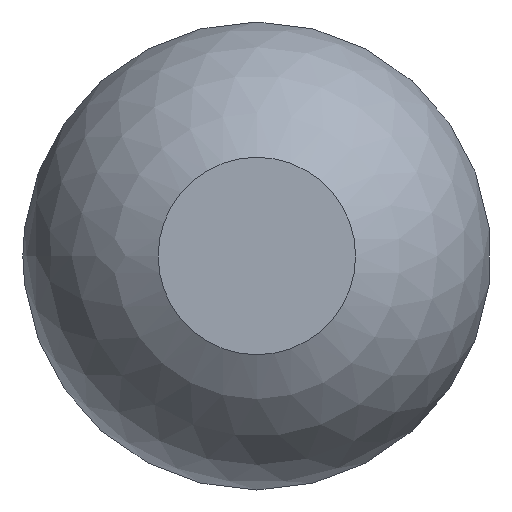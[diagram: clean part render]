
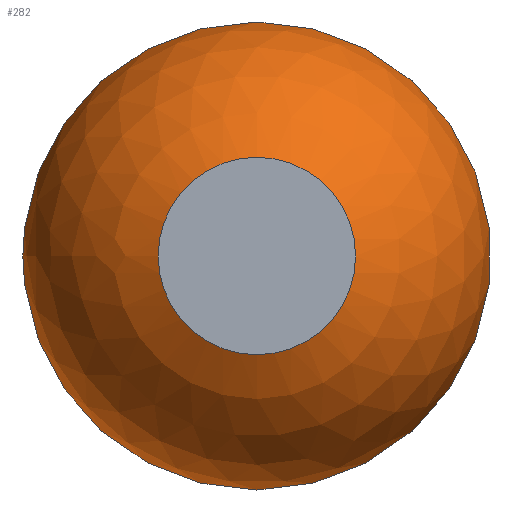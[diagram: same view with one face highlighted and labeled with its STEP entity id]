
A CAD part, left-side view. The second image highlights one B-rep face of the part: STEP entity #282.
In plain terms, the highlighted spherical face has radius 7.5 mm.
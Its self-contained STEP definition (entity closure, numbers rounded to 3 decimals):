
#282=ADVANCED_FACE('',(#476,#478),#480,.T.);
#476=FACE_OUTER_BOUND('',#477,.T.);
#477=EDGE_LOOP('',(#692));
#478=FACE_OUTER_BOUND('',#479,.T.);
#479=EDGE_LOOP('',(#693));
#480=SPHERICAL_SURFACE('',#481,7.5);
#481=AXIS2_PLACEMENT_3D('',#482,#483,#484);
#482=CARTESIAN_POINT('',(0.,0.,0.));
#483=DIRECTION('',(1.,0.,0.));
#484=DIRECTION('',(0.,1.,0.));
#692=ORIENTED_EDGE('',*,*,#796,.F.);
#693=ORIENTED_EDGE('',*,*,#797,.T.);
#796=EDGE_CURVE('',#896,#896,#897,.T.);
#797=EDGE_CURVE('',#898,#898,#899,.T.);
#896=VERTEX_POINT('',#1400);
#897=CIRCLE('',#1401,6.);
#898=VERTEX_POINT('',#1405);
#899=CIRCLE('',#1406,3.164);
#1400=CARTESIAN_POINT('',(4.5,6.,0.));
#1401=AXIS2_PLACEMENT_3D('',#1402,#1403,#1404);
#1402=CARTESIAN_POINT('',(4.5,0.,0.));
#1403=DIRECTION('',(1.,0.,0.));
#1404=DIRECTION('',(0.,1.,0.));
#1405=CARTESIAN_POINT('',(-6.8,3.164,0.));
#1406=AXIS2_PLACEMENT_3D('',#1407,#1408,#1409);
#1407=CARTESIAN_POINT('',(-6.8,0.,0.));
#1408=DIRECTION('',(1.,0.,0.));
#1409=DIRECTION('',(0.,1.,0.));
